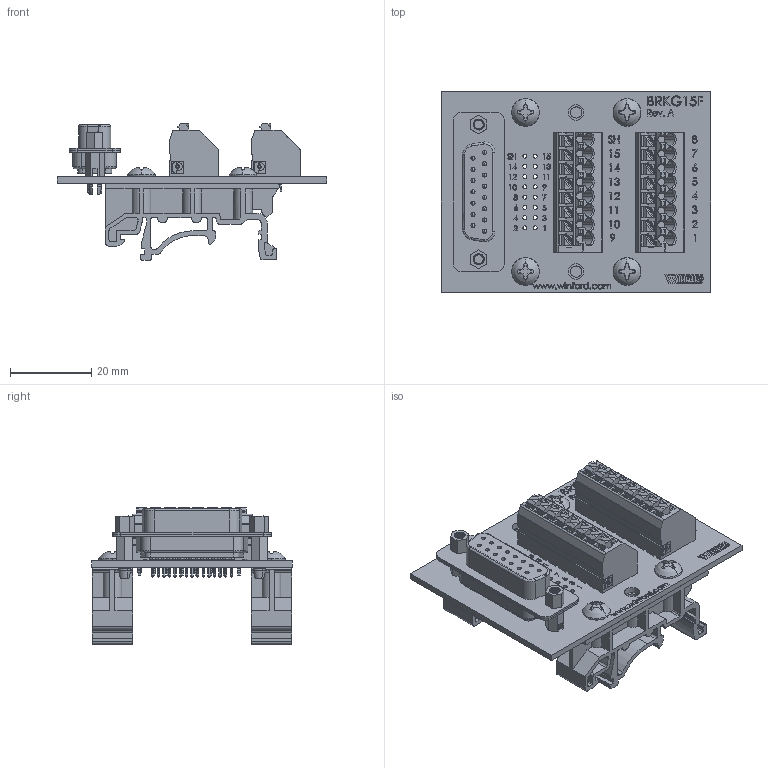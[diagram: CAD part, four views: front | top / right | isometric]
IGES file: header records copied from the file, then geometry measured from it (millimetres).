
Start section: SolidWorks IGES file using analytic representation for surfaces
Global section: file name: C:\Users\Jonny\Documents\Winford Engineering Jobs\BRKG15 Boards\BRKG15F\brkg15f_s_din-rev-a.igs; native system: SolidWorks 2017; preprocessor: SolidWorks 2017; author: Jonny; date: 170801.220036; units: inch
Bounding box: 66.35 x 49.29 x 33.67 mm (x, y, z)
Volume: 20389 mm3; surface area: 25669.2 mm2
Topology: 46 solids, 46 shells, 3898 faces, 10624 edges, 6864 vertices
Faces by surface type: plane 2117, revolution 1304, bspline 477
